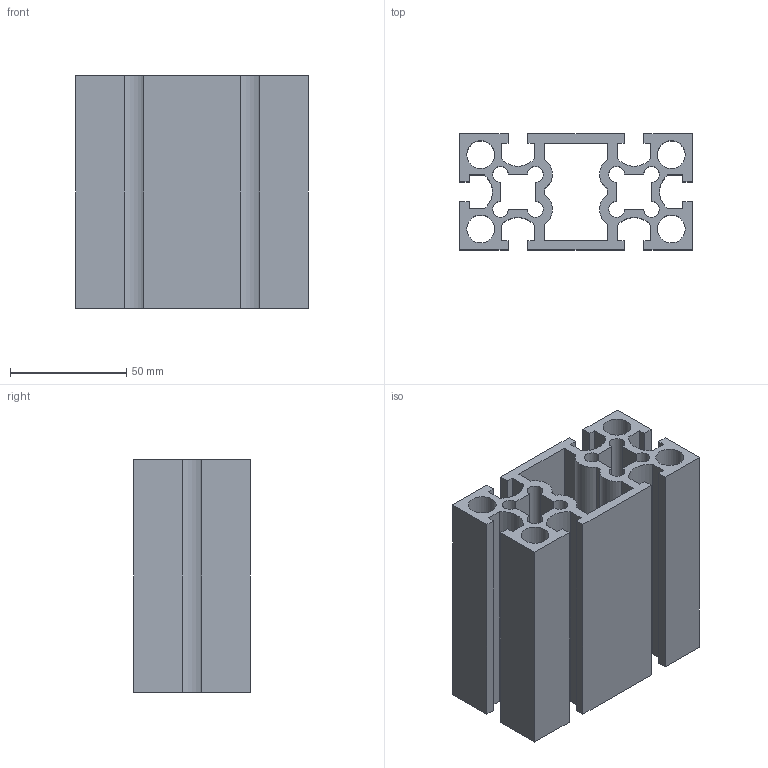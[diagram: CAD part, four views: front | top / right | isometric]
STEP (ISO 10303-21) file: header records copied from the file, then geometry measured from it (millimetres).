
FILE_DESCRIPTION(/* description */ ('Unknown'),/* implementation_level */ '2;1');
FILE_NAME(/* name */ 'NM50100',/* time_stamp */ '2026-08-31T11:55:23+08:00',/* author */ ('Unknown'),/* organization */ ('Unknown'),/* preprocessor_version */ 'ST-DEVELOPER v16.7',/* originating_system */ 'DEX',/* authorisation */ $);
FILE_SCHEMA (('AUTOMOTIVE_DESIGN {1 0 10303 214 3 1 1}'));
Length unit declared in the file: millimetre
Products named in the file (1): 50100-
Bounding box: 100 x 50 x 100 mm (x, y, z)
Volume: 187321 mm3; surface area: 104261.5 mm2
Topology: 1 solids, 1 shells, 86 faces, 252 edges, 168 vertices
Faces by surface type: plane 64, cylinder 22
Full cylindrical faces by diameter (mm): 12 x4
Entity records: 2878 total; most frequent: CARTESIAN_POINT 503, ORIENTED_EDGE 496, DIRECTION 466, EDGE_CURVE 248, LINE 204, VECTOR 204, VERTEX_POINT 168, AXIS2_PLACEMENT_3D 131
